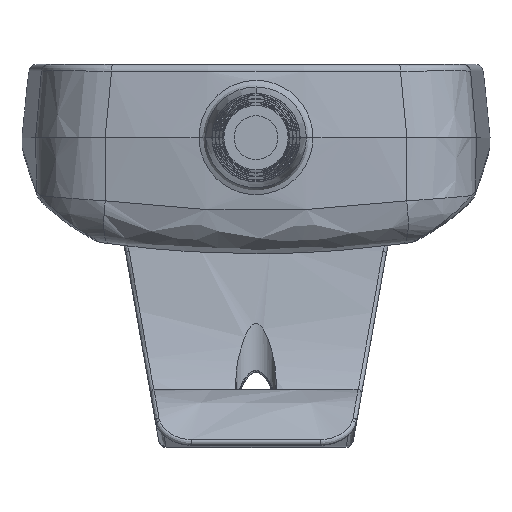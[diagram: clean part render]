
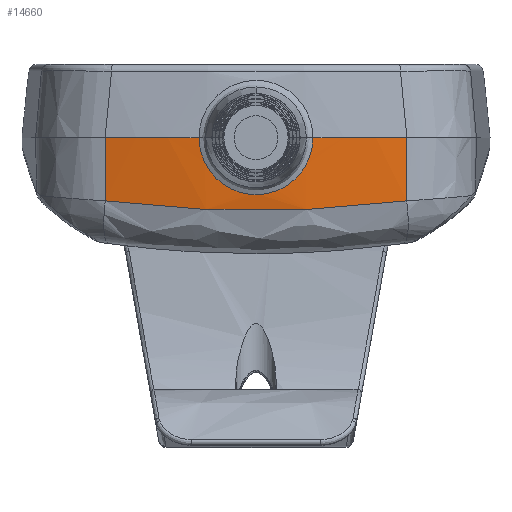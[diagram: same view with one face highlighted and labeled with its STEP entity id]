
A CAD part, front view. The second image highlights one B-rep face of the part: STEP entity #14660.
In plain terms, the highlighted conical face has half-angle 1 degrees and reference radius 100 mm.
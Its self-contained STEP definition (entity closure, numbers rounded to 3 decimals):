
#1240 = CIRCLE ( 'NONE', #1755, 100. ) ;
#1320 = CIRCLE ( 'NONE', #1788, 100. ) ;
#1585 = VECTOR ( 'NONE', #13962, 1000. ) ;
#1589 = LINE ( 'NONE', #13961, #1585 ) ;
#1593 = VECTOR ( 'NONE', #13889, 1000. ) ;
#1595 = LINE ( 'NONE', #13888, #1593 ) ;
#1755 = AXIS2_PLACEMENT_3D ( 'NONE', #11683, #11726, #11727 ) ;
#1788 = AXIS2_PLACEMENT_3D ( 'NONE', #9977, #9979, #9981 ) ;
#1997 = VERTEX_POINT ( 'NONE', #6488 ) ;
#2005 = VERTEX_POINT ( 'NONE', #6480 ) ;
#2009 = VERTEX_POINT ( 'NONE', #6476 ) ;
#2011 = VERTEX_POINT ( 'NONE', #6473 ) ;
#2012 = VERTEX_POINT ( 'NONE', #6472 ) ;
#2020 = VERTEX_POINT ( 'NONE', #6464 ) ;
#2851 = EDGE_LOOP ( 'NONE', ( #20829, #20813, #20831, #20752, #20800, #20807 ) ) ;
#6464 = CARTESIAN_POINT ( 'NONE',  ( 20.608, -102.46, 0. ) ) ;
#6472 = CARTESIAN_POINT ( 'NONE',  ( -7.766, -104.304, 0. ) ) ;
#6473 = CARTESIAN_POINT ( 'NONE',  ( -20.577, -102.312, -8.635 ) ) ;
#6476 = CARTESIAN_POINT ( 'NONE',  ( 20.577, -102.312, -8.635 ) ) ;
#6480 = CARTESIAN_POINT ( 'NONE',  ( 7.766, -104.304, 0. ) ) ;
#6488 = CARTESIAN_POINT ( 'NONE',  ( -20.608, -102.46, 0. ) ) ;
#6846 = CONICAL_SURFACE ( 'NONE', #12133, 100., 0.017 ) ;
#6854 = FACE_OUTER_BOUND ( 'NONE', #2851, .T. ) ;
#9977 = CARTESIAN_POINT ( 'NONE',  ( 0., -4.606, 0. ) ) ;
#9979 = DIRECTION ( 'NONE',  ( 0., 0., -1. ) ) ;
#9981 = DIRECTION ( 'NONE',  ( 1., 0., 0. ) ) ;
#11199 = CARTESIAN_POINT ( 'NONE',  ( -20.577, -102.312, -8.635 ) ) ;
#11208 = CARTESIAN_POINT ( 'NONE',  ( -17.16, -103.024, -9.076 ) ) ;
#11209 = CARTESIAN_POINT ( 'NONE',  ( -13.721, -103.555, -9.407 ) ) ;
#11211 = CARTESIAN_POINT ( 'NONE',  ( -8.56, -104.083, -9.737 ) ) ;
#11213 = CARTESIAN_POINT ( 'NONE',  ( -6.84, -104.215, -9.819 ) ) ;
#11214 = CARTESIAN_POINT ( 'NONE',  ( -4.261, -104.346, -9.901 ) ) ;
#11215 = CARTESIAN_POINT ( 'NONE',  ( -2.973, -104.395, -9.932 ) ) ;
#11217 = CARTESIAN_POINT ( 'NONE',  ( -1.686, -104.419, -9.948 ) ) ;
#11219 = CARTESIAN_POINT ( 'NONE',  ( -0.829, -104.43, -9.954 ) ) ;
#11221 = CARTESIAN_POINT ( 'NONE',  ( -0.399, -104.432, -9.956 ) ) ;
#11223 = CARTESIAN_POINT ( 'NONE',  ( 6.862, -104.43, -9.955 ) ) ;
#11225 = CARTESIAN_POINT ( 'NONE',  ( 13.76, -103.732, -9.515 ) ) ;
#11227 = CARTESIAN_POINT ( 'NONE',  ( 20.577, -102.312, -8.635 ) ) ;
#11683 = CARTESIAN_POINT ( 'NONE',  ( 0., -4.606, 0. ) ) ;
#11726 = DIRECTION ( 'NONE',  ( 0., 0., -1. ) ) ;
#11727 = DIRECTION ( 'NONE',  ( 1., 0., 0. ) ) ;
#12133 = AXIS2_PLACEMENT_3D ( 'NONE', #22869, #22868, #22866 ) ;
#13666 = CARTESIAN_POINT ( 'NONE',  ( 7.766, -104.304, 0. ) ) ;
#13671 = CARTESIAN_POINT ( 'NONE',  ( 7.767, -104.295, -0.514 ) ) ;
#13672 = CARTESIAN_POINT ( 'NONE',  ( 7.716, -104.29, -1.029 ) ) ;
#13673 = CARTESIAN_POINT ( 'NONE',  ( 7.518, -104.288, -2.027 ) ) ;
#13674 = CARTESIAN_POINT ( 'NONE',  ( 7.371, -104.29, -2.512 ) ) ;
#13675 = CARTESIAN_POINT ( 'NONE',  ( 7.08, -104.299, -3.219 ) ) ;
#13676 = CARTESIAN_POINT ( 'NONE',  ( 6.97, -104.303, -3.452 ) ) ;
#13677 = CARTESIAN_POINT ( 'NONE',  ( 6.729, -104.311, -3.904 ) ) ;
#13678 = CARTESIAN_POINT ( 'NONE',  ( 6.599, -104.316, -4.122 ) ) ;
#13679 = CARTESIAN_POINT ( 'NONE',  ( 6.178, -104.332, -4.755 ) ) ;
#13680 = CARTESIAN_POINT ( 'NONE',  ( 5.857, -104.345, -5.148 ) ) ;
#13681 = CARTESIAN_POINT ( 'NONE',  ( 5.133, -104.372, -5.875 ) ) ;
#13682 = CARTESIAN_POINT ( 'NONE',  ( 4.739, -104.386, -6.199 ) ) ;
#13683 = CARTESIAN_POINT ( 'NONE',  ( 4.108, -104.406, -6.623 ) ) ;
#13684 = CARTESIAN_POINT ( 'NONE',  ( 3.89, -104.413, -6.754 ) ) ;
#13685 = CARTESIAN_POINT ( 'NONE',  ( 3.441, -104.425, -6.995 ) ) ;
#13686 = CARTESIAN_POINT ( 'NONE',  ( 3.208, -104.431, -7.106 ) ) ;
#13687 = CARTESIAN_POINT ( 'NONE',  ( 2.501, -104.447, -7.4 ) ) ;
#13688 = CARTESIAN_POINT ( 'NONE',  ( 2.016, -104.455, -7.547 ) ) ;
#13689 = CARTESIAN_POINT ( 'NONE',  ( 1.019, -104.467, -7.746 ) ) ;
#13690 = CARTESIAN_POINT ( 'NONE',  ( 0.504, -104.47, -7.797 ) ) ;
#13691 = CARTESIAN_POINT ( 'NONE',  ( -0.513, -104.47, -7.796 ) ) ;
#13692 = CARTESIAN_POINT ( 'NONE',  ( -1.017, -104.467, -7.747 ) ) ;
#13693 = CARTESIAN_POINT ( 'NONE',  ( -1.768, -104.458, -7.596 ) ) ;
#13694 = CARTESIAN_POINT ( 'NONE',  ( -2.018, -104.454, -7.533 ) ) ;
#13695 = CARTESIAN_POINT ( 'NONE',  ( -2.506, -104.446, -7.384 ) ) ;
#13696 = CARTESIAN_POINT ( 'NONE',  ( -2.745, -104.441, -7.298 ) ) ;
#13697 = CARTESIAN_POINT ( 'NONE',  ( -3.446, -104.425, -7.006 ) ) ;
#13698 = CARTESIAN_POINT ( 'NONE',  ( -3.893, -104.413, -6.767 ) ) ;
#13699 = CARTESIAN_POINT ( 'NONE',  ( -4.747, -104.386, -6.194 ) ) ;
#13700 = CARTESIAN_POINT ( 'NONE',  ( -5.138, -104.372, -5.87 ) ) ;
#13701 = CARTESIAN_POINT ( 'NONE',  ( -5.675, -104.352, -5.331 ) ) ;
#13702 = CARTESIAN_POINT ( 'NONE',  ( -5.845, -104.345, -5.142 ) ) ;
#13703 = CARTESIAN_POINT ( 'NONE',  ( -6.168, -104.333, -4.747 ) ) ;
#13704 = CARTESIAN_POINT ( 'NONE',  ( -6.322, -104.327, -4.539 ) ) ;
#13705 = CARTESIAN_POINT ( 'NONE',  ( -6.745, -104.31, -3.902 ) ) ;
#13706 = CARTESIAN_POINT ( 'NONE',  ( -6.983, -104.302, -3.454 ) ) ;
#13707 = CARTESIAN_POINT ( 'NONE',  ( -7.371, -104.29, -2.514 ) ) ;
#13708 = CARTESIAN_POINT ( 'NONE',  ( -7.52, -104.288, -2.018 ) ) ;
#13709 = CARTESIAN_POINT ( 'NONE',  ( -7.717, -104.29, -1.02 ) ) ;
#13710 = CARTESIAN_POINT ( 'NONE',  ( -7.767, -104.295, -0.514 ) ) ;
#13711 = CARTESIAN_POINT ( 'NONE',  ( -7.766, -104.304, 0. ) ) ;
#13888 = CARTESIAN_POINT ( 'NONE',  ( 20.608, -102.46, 0. ) ) ;
#13889 = DIRECTION ( 'NONE',  ( 0.004, -0.017, 1. ) ) ;
#13961 = CARTESIAN_POINT ( 'NONE',  ( -20.608, -102.46, 0. ) ) ;
#13962 = DIRECTION ( 'NONE',  ( 0.004, 0.017, -1. ) ) ;
#14660 = ADVANCED_FACE ( 'NONE', ( #6854 ), #6846, .T. ) ;
#19673 = EDGE_CURVE ( 'NONE', #2005, #2012, #21421, .T. ) ;
#19694 = EDGE_CURVE ( 'NONE', #2009, #2020, #1595, .T. ) ;
#19706 = EDGE_CURVE ( 'NONE', #1997, #2011, #1589, .T. ) ;
#20054 = EDGE_CURVE ( 'NONE', #2012, #1997, #1320, .T. ) ;
#20130 = EDGE_CURVE ( 'NONE', #2011, #2009, #21195, .T. ) ;
#20176 = EDGE_CURVE ( 'NONE', #2020, #2005, #1240, .T. ) ;
#20752 = ORIENTED_EDGE ( 'NONE', *, *, #19706, .T. ) ;
#20800 = ORIENTED_EDGE ( 'NONE', *, *, #20130, .T. ) ;
#20807 = ORIENTED_EDGE ( 'NONE', *, *, #19694, .T. ) ;
#20813 = ORIENTED_EDGE ( 'NONE', *, *, #19673, .T. ) ;
#20829 = ORIENTED_EDGE ( 'NONE', *, *, #20176, .T. ) ;
#20831 = ORIENTED_EDGE ( 'NONE', *, *, #20054, .T. ) ;
#21195 = B_SPLINE_CURVE_WITH_KNOTS ( 'NONE', 3,
 ( #11199, #11208, #11209, #11211, #11213, #11214, #11215, #11217, #11219, #11221, #11223, #11225, #11227 ),
 .UNSPECIFIED., .F., .F.,
 ( 4, 2, 2, 1, 2, 2, 4 ),
 ( 0., 0.25, 0.375, 0.438, 0.469, 0.5, 1. ),
 .UNSPECIFIED. ) ;
#21421 = B_SPLINE_CURVE_WITH_KNOTS ( 'NONE', 3,
 ( #13666, #13671, #13672, #13673, #13674, #13675, #13676, #13677, #13678, #13679, #13680, #13681, #13682, #13683, #13684, #13685, #13686, #13687, #13688, #13689, #13690, #13691, #13692, #13693, #13694, #13695, #13696, #13697, #13698, #13699, #13700, #13701, #13702, #13703, #13704, #13705, #13706, #13707, #13708, #13709, #13710, #13711 ),
 .UNSPECIFIED., .F., .F.,
 ( 4, 2, 2, 2, 2, 2, 2, 2, 2, 2, 2, 2, 2, 2, 2, 2, 2, 2, 2, 2, 4 ),
 ( 0., 0.002, 0.003, 0.004, 0.005, 0.006, 0.008, 0.008, 0.009, 0.011, 0.012, 0.014, 0.015, 0.015, 0.017, 0.018, 0.019, 0.02, 0.022, 0.023, 0.025 ),
 .UNSPECIFIED. ) ;
#22866 = DIRECTION ( 'NONE',  ( 1., 0., 0. ) ) ;
#22868 = DIRECTION ( 'NONE',  ( 0., 0., 1. ) ) ;
#22869 = CARTESIAN_POINT ( 'NONE',  ( 0., -4.606, 0. ) ) ;
